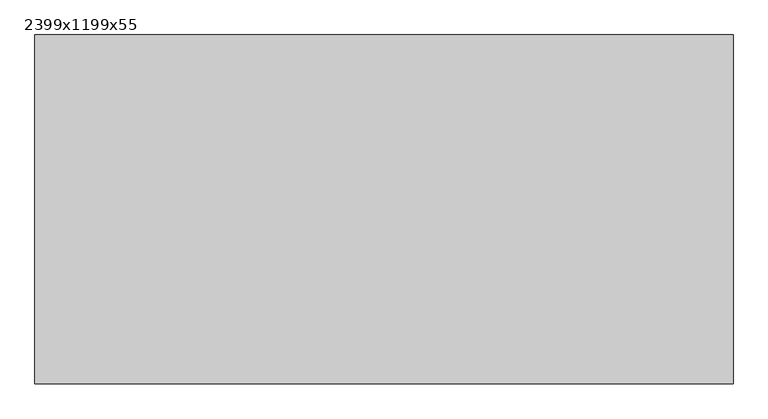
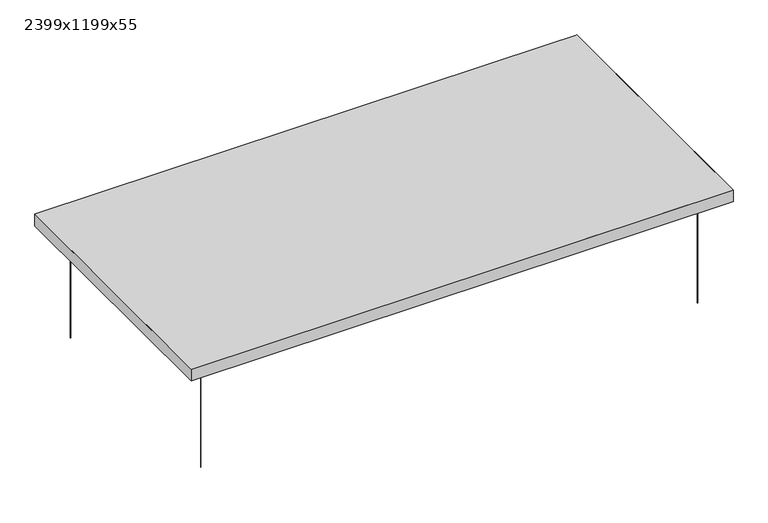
"""IFC4 building model written with IfcOpenShell, lengths in millimetres: proxy geometry, Texaa Panneaux_acoustiques Stereo suspendus_séparés : 2399x1199x55."""

import ifcopenshell
import ifcopenshell.guid

model = None  # the IFC model being written
_history = None  # IfcOwnerHistory: only IFC2X3 demands one
_inside = {}  # id of a spatial element -> (the spatial element, [elements in it])
_under = {}  # id of a project, library or spatial element -> (it, [spatial elements below it])
_declared = {}  # id of a project -> (the project, [libraries it declares])
_typed = {}  # id of a type object -> (the type object, [elements of that type])
_made_of = {}  # id of a material, layer set ... -> (it, [elements and type objects made of it])


def new_model(schema):
    """Start an empty IFC model of exactly this schema.

    Asked for "IFC4X3", IfcOpenShell would pick the latest addendum, in which some entities
    have other attributes; the version numbers below select the first issue.
    IFC2X3 requires an IfcOwnerHistory on every rooted entity: one is made here for all.
    """
    global model, _history
    if schema == "IFC4X3":
        model = ifcopenshell.file(schema_version=(4, 3, 0, 0))
    else:
        model = ifcopenshell.file(schema=schema)
    _inside.clear()
    _under.clear()
    _declared.clear()
    _typed.clear()
    _made_of.clear()
    _history = None
    if model.schema == "IFC2X3":
        org = make("IfcOrganization", Name="unknown")
        user = make(
            "IfcPersonAndOrganization",
            ThePerson=make("IfcPerson", FamilyName="unknown"),
            TheOrganization=org,
        )
        app = make(
            "IfcApplication",
            ApplicationDeveloper=org,
            Version="unknown",
            ApplicationFullName="unknown",
            ApplicationIdentifier="unknown",
        )
        _history = make(
            "IfcOwnerHistory",
            OwningUser=user,
            OwningApplication=app,
            ChangeAction="ADDED",
            CreationDate=0,
        )
    return model


def make(cls, **values):
    """One entity of the class cls with the attributes given. An attribute that is None is left unset."""
    return model.create_entity(
        cls, **{name: value for name, value in values.items() if value is not None}
    )


def rooted(cls, **values):
    """An entity with a GlobalId (a new one), such as an element, a storey or a relation."""
    return make(cls, GlobalId=ifcopenshell.guid.new(), OwnerHistory=_history, **values)


def si_unit(unit_type, name, prefix=None):
    """IfcSIUnit, for example si_unit("LENGTHUNIT", "METRE", prefix="MILLI")."""
    return make("IfcSIUnit", UnitType=unit_type, Prefix=prefix, Name=name)


def assignment(units):
    """IfcUnitAssignment: the units of a project."""
    return None if units is None else make("IfcUnitAssignment", Units=units)


def point(xyz):
    """IfcCartesianPoint."""
    return None if xyz is None else make("IfcCartesianPoint", Coordinates=xyz)


def direction(xyz):
    """IfcDirection."""
    return None if xyz is None else make("IfcDirection", DirectionRatios=xyz)


def frame(location, z_axis=None, x_axis=None):
    """IfcAxis2Placement3D, a coordinate frame: its origin and axes. An axis left out is left unset."""
    return make(
        "IfcAxis2Placement3D",
        Location=point(location),
        Axis=direction(z_axis),
        RefDirection=direction(x_axis),
    )


def frame_2d(location, x_axis=None):
    """IfcAxis2Placement2D, a coordinate frame in the plane: its origin and x axis."""
    return make(
        "IfcAxis2Placement2D", Location=point(location), RefDirection=direction(x_axis)
    )


def origin():
    """The frame at (0, 0, 0) with its axes left unset."""
    return frame((0.0, 0.0, 0.0))


def origin_with_axes():
    """The frame at (0, 0, 0) with the z axis (0, 0, 1) and the x axis (1, 0, 0) written out."""
    return frame((0.0, 0.0, 0.0), z_axis=(0.0, 0.0, 1.0), x_axis=(1.0, 0.0, 0.0))


def place(relative_to, where):
    """IfcLocalPlacement: puts the frame where relative to a parent placement (None: the world)."""
    return make(
        "IfcLocalPlacement", PlacementRelTo=relative_to, RelativePlacement=where
    )


def context(
    kind, dimensions, precision=None, world=None, true_north=None, identifier=None
):
    """IfcGeometricRepresentationContext, for example the 3D "Model" context."""
    return make(
        "IfcGeometricRepresentationContext",
        ContextIdentifier=identifier,
        ContextType=kind,
        CoordinateSpaceDimension=dimensions,
        Precision=precision,
        WorldCoordinateSystem=world,
        TrueNorth=true_north,
    )


def project(units=None, contexts=None):
    """IfcProject with its units and contexts."""
    return rooted(
        "IfcProject",
        Name="project",
        RepresentationContexts=contexts,
        UnitsInContext=assignment(units),
    )


def spatial(cls, under=None, at=None, **own):
    """A site, building, storey or space (cls), placed at a placement, below another one or the project."""
    s = rooted(cls, ObjectPlacement=at, **own)
    if under is not None:
        _under.setdefault(under.id(), (under, []))[1].append(s)
    return s


def polyline(points):
    """IfcPolyline through the points."""
    return make("IfcPolyline", Points=[point(p) for p in points])


def circle_curve(where, radius):
    """IfcCircle in the frame where."""
    return make("IfcCircle", Position=where, Radius=radius)


def trimmed(basis, trim1, trim2, sense, master):
    """IfcTrimmedCurve: the piece of a basis curve between two trims."""
    return make(
        "IfcTrimmedCurve",
        BasisCurve=basis,
        Trim1=trim1,
        Trim2=trim2,
        SenseAgreement=sense,
        MasterRepresentation=master,
    )


def segment(curve, same_sense, transition):
    """IfcCompositeCurveSegment."""
    return make(
        "IfcCompositeCurveSegment",
        Transition=transition,
        SameSense=same_sense,
        ParentCurve=curve,
    )


def composite_curve(segments, self_intersect=None):
    """IfcCompositeCurve: segments joined end to end."""
    return make("IfcCompositeCurve", Segments=segments, SelfIntersect=self_intersect)


def outline(outer, holes=None, kind="AREA"):
    """IfcArbitraryClosedProfileDef: a profile drawn as a closed curve; with holes, ...WithVoids."""
    if holes is None:
        return make("IfcArbitraryClosedProfileDef", ProfileType=kind, OuterCurve=outer)
    return make(
        "IfcArbitraryProfileDefWithVoids",
        ProfileType=kind,
        OuterCurve=outer,
        InnerCurves=holes,
    )


def extrude(swept, where, along, depth):
    """IfcExtrudedAreaSolid: the profile swept, set in the frame where, extruded along a direction by depth."""
    return make(
        "IfcExtrudedAreaSolid",
        SweptArea=swept,
        Position=where,
        ExtrudedDirection=direction(along),
        Depth=depth,
    )


def faces_of(points, faces, orient=None, outer=None):
    """IfcFace entities. A face is a list of loops; a loop is a list of indices into points, from 0.

    orient and outer hold one flag for each loop. By default every Orientation is true, the
    first loop of a face is its IfcFaceOuterBound and the others are IfcFaceBound.
    """
    made = []
    for i, loops in enumerate(faces):
        bounds = []
        for j, loop in enumerate(loops):
            is_outer = j == 0 if outer is None else outer[i][j]
            bounds.append(
                make(
                    "IfcFaceOuterBound" if is_outer else "IfcFaceBound",
                    Bound=make("IfcPolyLoop", Polygon=[points[k] for k in loop]),
                    Orientation=True if orient is None else orient[i][j],
                )
            )
        made.append(make("IfcFace", Bounds=bounds))
    return made


def faceted_brep(points, faces, orient=None, outer=None, voids=None):
    """IfcFacetedBrep: a solid bounded by flat faces; with voids (closed shells), ...WithVoids."""
    shared = [point(p) for p in points]
    hull = make("IfcClosedShell", CfsFaces=faces_of(shared, faces, orient, outer))
    if voids is None:
        return make("IfcFacetedBrep", Outer=hull)
    return make(
        "IfcFacetedBrepWithVoids",
        Outer=hull,
        Voids=[
            make(cls, CfsFaces=faces_of(shared, fs, o, b)) for cls, fs, o, b in voids
        ],
    )


def shape(context_of_items, identifier, shape_type, items):
    """IfcShapeRepresentation: the items that make up one representation, for example the "Body"."""
    return make(
        "IfcShapeRepresentation",
        ContextOfItems=context_of_items,
        RepresentationIdentifier=identifier,
        RepresentationType=shape_type,
        Items=items,
    )


def source(mapping_origin, context_of_items, identifier, shape_type, items):
    """IfcRepresentationMap: a shape defined once, which mapped items show again and again."""
    return make(
        "IfcRepresentationMap",
        MappingOrigin=mapping_origin,
        MappedRepresentation=shape(context_of_items, identifier, shape_type, items),
    )


def transform(
    local_origin,
    x_axis=None,
    y_axis=None,
    z_axis=None,
    scale=None,
    scale2=None,
    scale3=None,
    uniform=True,
):
    """IfcCartesianTransformationOperator3D, or its non-uniform kind. x_axis, y_axis, z_axis: its Axis1, 2, 3."""
    if uniform:
        return make(
            "IfcCartesianTransformationOperator3D",
            Axis1=direction(x_axis),
            Axis2=direction(y_axis),
            LocalOrigin=point(local_origin),
            Scale=scale,
            Axis3=direction(z_axis),
        )
    return make(
        "IfcCartesianTransformationOperator3DnonUniform",
        Axis1=direction(x_axis),
        Axis2=direction(y_axis),
        LocalOrigin=point(local_origin),
        Scale=scale,
        Axis3=direction(z_axis),
        Scale2=scale2,
        Scale3=scale3,
    )


def mapped(mapping_source, mapping_target):
    """IfcMappedItem: shows the shape of a source again, moved by a transform."""
    return make(
        "IfcMappedItem", MappingSource=mapping_source, MappingTarget=mapping_target
    )


def made_of(thing, what):
    """Note that an element or type object is made of a material, layer set ...; save() writes the relation."""
    if what is not None:
        _made_of.setdefault(what.id(), (what, []))[1].append(thing)
    return thing


def element(
    cls,
    number,
    at=None,
    inside=None,
    cuts=None,
    type_object=None,
    material=None,
    context=None,
    identifier="Body",
    shape_type=None,
    held_by="IfcProductDefinitionShape",
    body=None,
    shapes=None,
    **own,
):
    """One element of the class cls, such as IfcWall. Its Tag is "e" and its number.

    at: its placement. inside: the storey or other place that contains it. cuts: it is an
    opening in that element (IfcRelVoidsElement). A single representation is given by context,
    identifier, shape_type and body (its items); several are given by shapes. held_by: the class
    of the entity that holds the representations. save() writes the other relations.
    """
    e = rooted(cls, Tag="e%d" % number, ObjectPlacement=at, **own)
    if body is not None:
        shapes = [shape(context, identifier, shape_type, body)]
    if shapes is not None:
        e.Representation = make(held_by, Representations=shapes)
    if inside is not None:
        _inside.setdefault(inside.id(), (inside, []))[1].append(e)
    if cuts is not None:
        rooted(
            "IfcRelVoidsElement", RelatingBuildingElement=cuts, RelatedOpeningElement=e
        )
    if type_object is not None:
        _typed.setdefault(type_object.id(), (type_object, []))[1].append(e)
    return made_of(e, material)


def aggregate(whole, parts):
    """IfcRelAggregates: a whole, such as a stair, and the parts it consists of."""
    return rooted("IfcRelAggregates", RelatingObject=whole, RelatedObjects=parts)


def save(model, path):
    """Write the relations noted so far, then the file.

    IfcRelAggregates (storeys below a building ...), IfcRelContainedInSpatialStructure (elements
    in a storey), IfcRelDefinesByType, IfcRelAssociatesMaterial and IfcRelDeclares: one each for
    every whole, place, type object, material and project.
    """
    for whole, parts in _under.values():
        aggregate(whole, parts)
    for where, things in _inside.values():
        rooted(
            "IfcRelContainedInSpatialStructure",
            RelatedElements=things,
            RelatingStructure=where,
        )
    for kind, things in _typed.values():
        rooted("IfcRelDefinesByType", RelatedObjects=things, RelatingType=kind)
    for what, things in _made_of.values():
        rooted("IfcRelAssociatesMaterial", RelatedObjects=things, RelatingMaterial=what)
    for by, libraries in _declared.values():
        rooted("IfcRelDeclares", RelatingContext=by, RelatedDefinitions=libraries)
    model.write(path)


def proxy_2399x1199x55_f2f002af(model_context):
    return source(origin(), model_context, "Body", "SolidModel", [
        extrude(outline(composite_curve([segment(trimmed(circle_curve(frame_2d((-1099.5, -499.5)), 0.75), [point((-1100.25, -499.5))], [point((-1098.75, -499.5))], False, "CARTESIAN"), True, "CONTINUOUS"), segment(trimmed(circle_curve(frame_2d((-1099.5, -499.5)), 0.75), [point((-1098.75, -499.5))], [point((-1100.25, -499.5))], False, "CARTESIAN"), True, "CONTINUOUS")], self_intersect=False)), origin_with_axes(), (0.0, 0.0, 1.0), 500.0),
        extrude(outline(composite_curve([segment(trimmed(circle_curve(frame_2d((1099.5, -499.5)), 0.75), [point((1098.75, -499.5))], [point((1100.25, -499.5))], False, "CARTESIAN"), True, "CONTINUOUS"), segment(trimmed(circle_curve(frame_2d((1099.5, -499.5)), 0.75), [point((1100.25, -499.5))], [point((1098.75, -499.5))], False, "CARTESIAN"), True, "CONTINUOUS")], self_intersect=False)), origin_with_axes(), (0.0, 0.0, 1.0), 500.0),
        extrude(outline(composite_curve([segment(trimmed(circle_curve(frame_2d((1099.5, 499.5)), 0.75), [point((1098.75, 499.5))], [point((1100.25, 499.5))], False, "CARTESIAN"), True, "CONTINUOUS"), segment(trimmed(circle_curve(frame_2d((1099.5, 499.5)), 0.75), [point((1100.25, 499.5))], [point((1098.75, 499.5))], False, "CARTESIAN"), True, "CONTINUOUS")], self_intersect=False)), origin_with_axes(), (0.0, 0.0, 1.0), 500.0),
        extrude(outline(composite_curve([segment(trimmed(circle_curve(frame_2d((-1099.5, 499.5)), 0.75), [point((-1100.25, 499.5))], [point((-1098.75, 499.5))], False, "CARTESIAN"), True, "CONTINUOUS"), segment(trimmed(circle_curve(frame_2d((-1099.5, 499.5)), 0.75), [point((-1098.75, 499.5))], [point((-1100.25, 499.5))], False, "CARTESIAN"), True, "CONTINUOUS")], self_intersect=False)), origin_with_axes(), (0.0, 0.0, 1.0), 500.0),
        extrude(outline(polyline([(-1198.5, -598.5), (-1198.5, 598.5), (1198.5, 598.5), (1198.5, -598.5), (-1198.5, -598.5)])), frame((0.0, 0.0, 501.0), z_axis=(0.0, 0.0, 1.0), x_axis=(1.0, 0.0, 0.0)), (0.0, 0.0, 1.0), 53.0),
        faceted_brep([(1199.5, 599.5, 555.0), (1197.263186, 599.5, 555.0), (1076.4752308, 599.5, 555.0), (-1199.5, 599.5, 555.0), (-1199.5, -538.0132562, 555.0), (-1199.5, -598.3820592, 555.0), (-1199.5, -599.5, 555.0), (1199.5, -599.5, 555.0), (-1199.5, -599.5, 500.0), (-1199.5, 599.5, 500.0), (1199.5, 599.5, 500.0), (1199.5, -599.5, 500.0), (-1149.5, 549.5, 500.0), (-1149.5, -549.5, 500.0), (1149.5, -549.5, 500.0), (1149.5, 549.5, 500.0), (-1199.5, -599.5, 554.0), (1199.5, 599.5, 554.0), (1149.5, 549.5, 501.0), (-1149.5, 549.5, 501.0), (1149.5, -549.5, 501.0), (-1149.5, -549.5, 501.0), (1198.5, -598.5, 554.0), (-1197.499166, -598.5, 554.0), (-1198.5, -598.5, 554.0), (-1198.5, -597.8822676, 554.0), (-1198.5, -537.5134646, 554.0), (-1198.5, 598.5, 554.0), (1074.4743967, 598.5, 554.0), (1195.262352, 598.5, 554.0), (1197.499166, 598.5, 554.0), (1198.5, 598.5, 554.0), (-1198.5, -598.5, 501.0), (1198.5, -598.5, 501.0), (1198.5, 598.5, 501.0), (-1198.5, 598.5, 501.0)], [[[0, 1, 2, 3, 4, 5, 6, 7]], [[8, 9, 10, 11], [12, 13, 14, 15]], [[8, 16, 6, 5, 4, 3, 9]], [[9, 3, 2, 1, 0, 17, 10]], [[7, 11, 10, 17, 0]], [[6, 16, 8, 11, 7]], [[12, 15, 18, 19]], [[15, 14, 20, 18]], [[14, 13, 21, 20]], [[19, 21, 13, 12]], [[22, 23, 24, 25, 26, 27, 28, 29, 30, 31]], [[32, 33, 34, 35], [18, 20, 21, 19]], [[35, 27, 26, 25, 24, 32]], [[34, 31, 30, 29, 28, 27, 35]], [[31, 34, 33, 22]], [[32, 24, 23, 22, 33]]]),
    ])


if __name__ == "__main__":
    model = new_model("IFC4")
    model_context = context("Model", 3, world=origin())
    ifc_project = project(units=[si_unit("LENGTHUNIT", "METRE", prefix="MILLI")], contexts=[model_context])
    site = spatial("IfcSite", under=ifc_project)
    building = spatial("IfcBuilding", under=site)
    placement = place(None, origin())
    proxy_2399x1199x55_shape = proxy_2399x1199x55_f2f002af(model_context)
    element("IfcBuildingElementProxy", 1, Name="Texaa Panneaux_acoustiques Stereo suspendus_séparés : 2399x1199x55", ObjectType="Texaa Panneaux_acoustiques Stereo suspendus_séparés : 2399x1199x55", at=placement, inside=building, context=model_context, shape_type="MappedRepresentation", body=[
        mapped(proxy_2399x1199x55_shape, transform((0.0, 0.0, 0.0), x_axis=(1.0, 0.0, 0.0), y_axis=(0.0, 1.0, 0.0), z_axis=(0.0, 0.0, 1.0))),
    ])
    save(model, "model.ifc")
